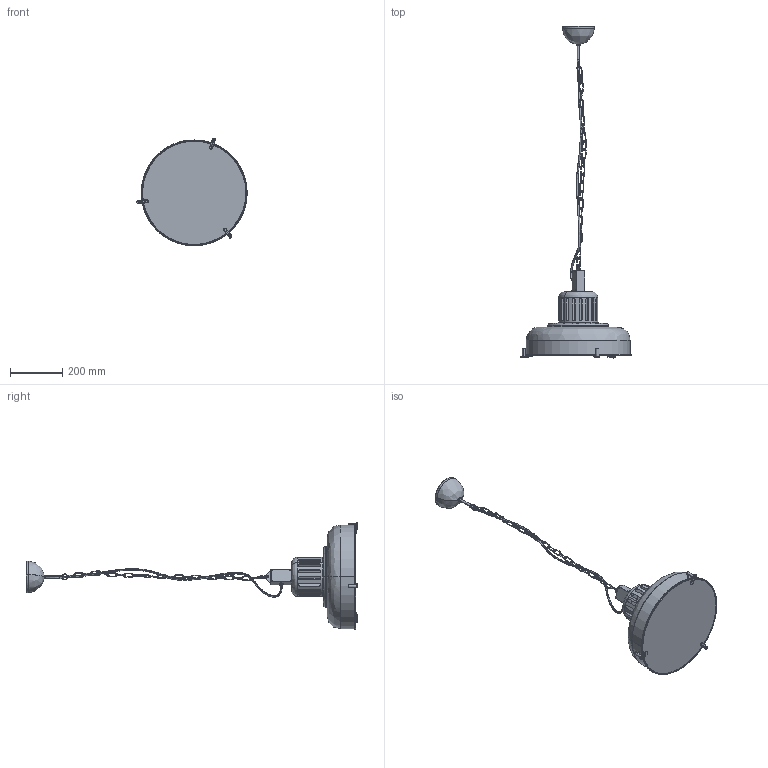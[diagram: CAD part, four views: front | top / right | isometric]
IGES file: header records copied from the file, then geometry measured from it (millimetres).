
Start section: SolidWorks IGES file using analytic representation for surfaces
Global section: file name: C:\Users\Asia\Desktop\INDUSTRIAL\Zwis L\Industrial L_zwis.IGS; native system: SolidWorks 2016; preprocessor: SolidWorks 2016; author: Asia; date: 161014.111811; units: millimetre
Bounding box: 423.02 x 1273.78 x 412.57 mm (x, y, z)
Surface area: 979951.5 mm2 (no closed solid volume)
Topology: 0 solids, 0 shells, 817 faces, 11434 edges, 11418 vertices
Faces by surface type: bspline 418, revolution 399
